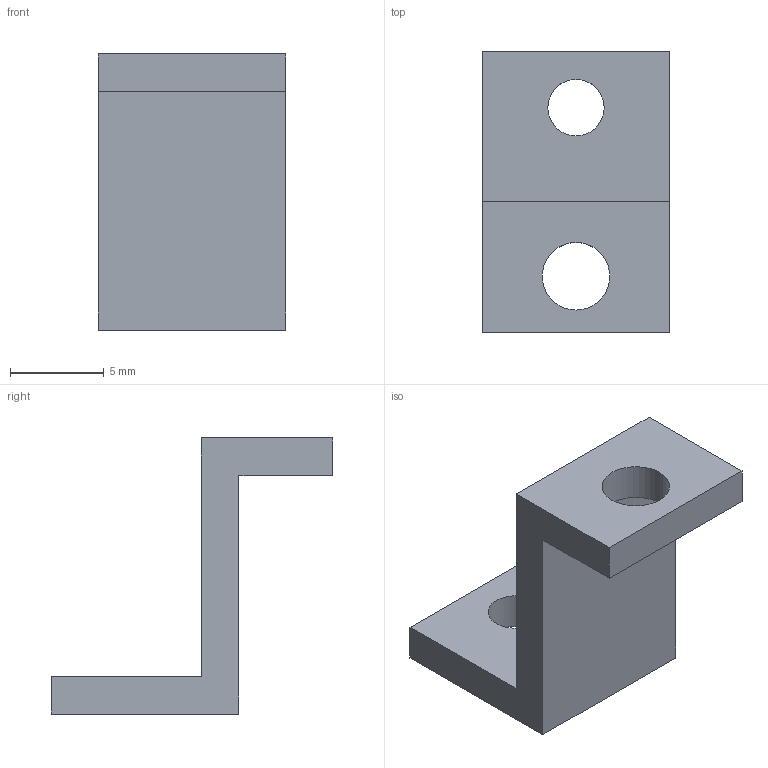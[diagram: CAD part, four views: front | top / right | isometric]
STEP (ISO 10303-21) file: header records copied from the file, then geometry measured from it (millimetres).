
FILE_DESCRIPTION(/* description */ ('STEP AP242 Edition 2','CAx-IF Rec.Pracs.---Representation and Presentation of Product Manufacturing Information (PMI)---4.0---2014-10-13','CAx-IF Rec.Pracs.---3D Tessellated Geometry---0.4---2014-09-14','2;1','CAx-IF Rec.Pracs.---User Defined Attributes---1.5---2016-08-15'),/* implementation_level */ '2;1');
FILE_NAME(/* name */ 'Arm Parts - ServoLink',/* time_stamp */ '2026-04-22T00:04:14Z',/* author */ (''),/* organization */ (''),/* preprocessor_version */ 'ST-DEVELOPER v20',/* originating_system */ 'ONSHAPE BY PTC INC, 1.213',/* authorisation */ ' ');
FILE_SCHEMA (('AP242_MANAGED_MODEL_BASED_3D_ENGINEERING_MIM_LF { 1 0 10303 442 3 1 4 }'));
Length unit declared in the file: metre
Products named in the file (1): ServoLink
Bounding box: 10 x 15 x 14.7 mm (x, y, z)
Volume: 519.5 mm3; surface area: 711.8 mm2
Topology: 1 solids, 1 shells, 12 faces, 31 edges, 21 vertices
Faces by surface type: plane 10, cylinder 2
Full cylindrical faces by diameter (mm): 3 x1, 3.6 x1
Entity records: 378 total; most frequent: CARTESIAN_POINT 61, DIRECTION 58, ORIENTED_EDGE 56, EDGE_CURVE 28, LINE 24, VECTOR 24, VERTEX_POINT 20, EDGE_LOOP 18
